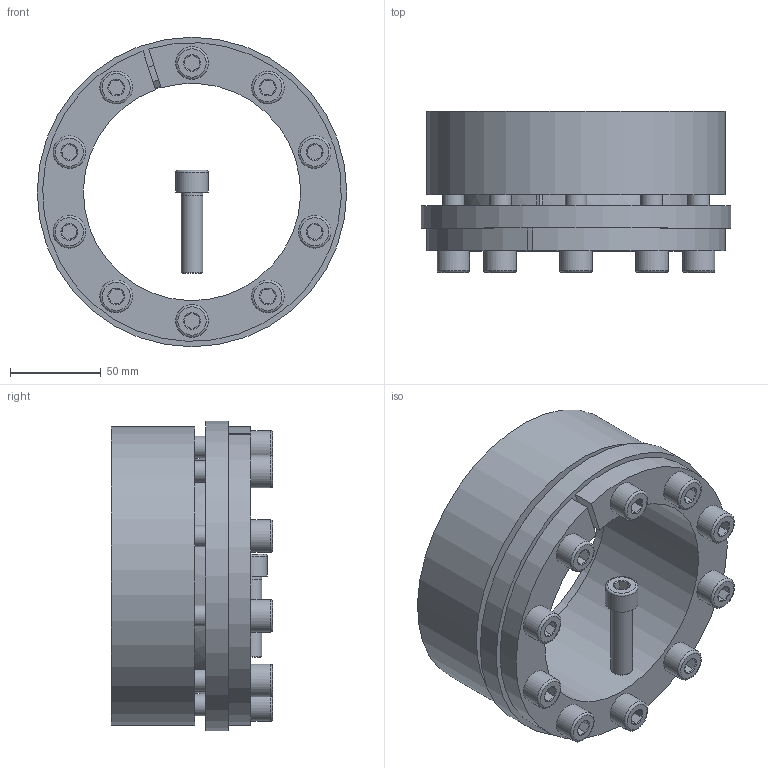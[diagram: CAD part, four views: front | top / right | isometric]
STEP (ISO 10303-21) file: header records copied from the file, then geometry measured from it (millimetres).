
FILE_DESCRIPTION( ( 'Unknown' ), '1' );
FILE_NAME( 'C:/Dokumente und Einstellungen/Sven/Desktop/homepage/cad - homepage/KBS71/KBS 71 - 120 x 165.stp', 'Unknown', ( 'Unknown' ), ( 'Unknown' ), 'XStep 1.0', 'Unknown', ' ' );
FILE_SCHEMA( ( 'automotive_design' ) );
Length unit declared in the file: millimetre
Products named in the file (3): Assem1; KBS 71 - 120 x 165; ISO EN DIN 4762 M12x45
Bounding box: 171 x 89 x 171 mm (x, y, z)
Volume: 1405707.2 mm3; surface area: 299874.1 mm2
Topology: 13 solids, 13 shells, 363 faces, 781 edges, 466 vertices
Faces by surface type: plane 164, cylinder 92, cone 85, torus 22
Full cylindrical faces by diameter (mm): 11 x11, 12 x62, 18 x11, 171 x2
Entity records: 2510 total; most frequent: CARTESIAN_POINT 389, DIRECTION 384, ORIENTED_EDGE 292, AXIS2_PLACEMENT_3D 167, EDGE_CURVE 146, EDGE_LOOP 136, VERTEX_POINT 104, FACE_OUTER_BOUND 96
